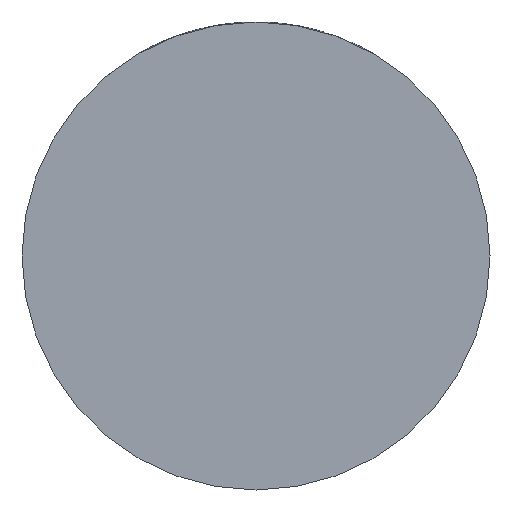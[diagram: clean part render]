
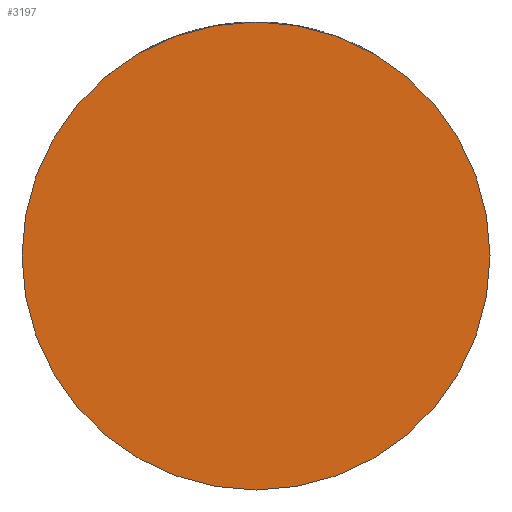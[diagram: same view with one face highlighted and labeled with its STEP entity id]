
A CAD part, front view. The second image highlights one B-rep face of the part: STEP entity #3197.
In plain terms, the highlighted planar face has unit normal (0, -1, 0).
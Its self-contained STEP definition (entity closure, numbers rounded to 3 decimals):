
#508 = CIRCLE ( 'NONE', #1892, 20. ) ;
#674 = CARTESIAN_POINT ( 'NONE',  ( 0., -13., 20. ) ) ;
#837 = DIRECTION ( 'NONE',  ( 0., 1., 0. ) ) ;
#915 = DIRECTION ( 'NONE',  ( 0., -1., 0. ) ) ;
#942 = CARTESIAN_POINT ( 'NONE',  ( 0., -13., 0. ) ) ;
#1548 = AXIS2_PLACEMENT_3D ( 'NONE', #942, #915, #4244 ) ;
#1554 = DIRECTION ( 'NONE',  ( 0., 0., 1. ) ) ;
#1848 = VERTEX_POINT ( 'NONE', #3644 ) ;
#1892 = AXIS2_PLACEMENT_3D ( 'NONE', #4086, #837, #3220 ) ;
#1937 = DIRECTION ( 'NONE',  ( 0., 1., 0. ) ) ;
#2249 = ORIENTED_EDGE ( 'NONE', *, *, #2646, .F. ) ;
#2380 = VERTEX_POINT ( 'NONE', #674 ) ;
#2646 = EDGE_CURVE ( 'NONE', #2380, #1848, #508, .T. ) ;
#2970 = ORIENTED_EDGE ( 'NONE', *, *, #4355, .F. ) ;
#3093 = AXIS2_PLACEMENT_3D ( 'NONE', #4015, #1937, #1554 ) ;
#3197 = ADVANCED_FACE ( 'NONE', ( #3380 ), #4191, .T. ) ;
#3200 = EDGE_LOOP ( 'NONE', ( #2249, #2970 ) ) ;
#3220 = DIRECTION ( 'NONE',  ( 0., 0., 1. ) ) ;
#3380 = FACE_OUTER_BOUND ( 'NONE', #3200, .T. ) ;
#3644 = CARTESIAN_POINT ( 'NONE',  ( 0., -13., -20. ) ) ;
#4015 = CARTESIAN_POINT ( 'NONE',  ( 0., -13., 0. ) ) ;
#4086 = CARTESIAN_POINT ( 'NONE',  ( 0., -13., 0. ) ) ;
#4191 = PLANE ( 'NONE',  #1548 ) ;
#4244 = DIRECTION ( 'NONE',  ( 0., 0., -1. ) ) ;
#4355 = EDGE_CURVE ( 'NONE', #1848, #2380, #5240, .T. ) ;
#5240 = CIRCLE ( 'NONE', #3093, 20. ) ;
